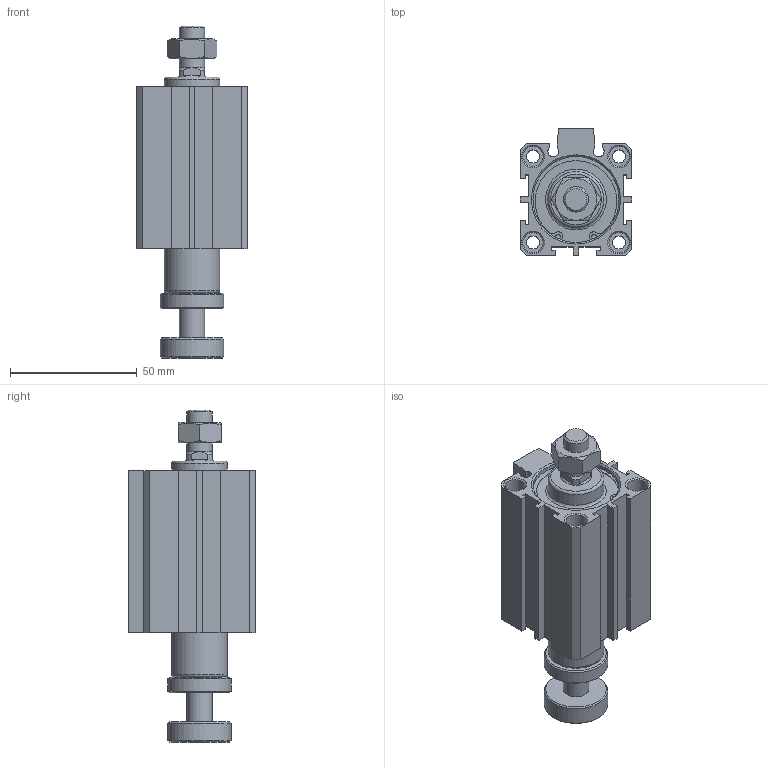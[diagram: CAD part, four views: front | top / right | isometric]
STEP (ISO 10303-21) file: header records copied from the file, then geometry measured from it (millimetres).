
FILE_DESCRIPTION((''),'2;1');
FILE_NAME('I:\3D電子目錄\氣缸\JDAR\JDAR-BS\JDAR32-BS\JDAR32x30-BS.stp','2007-05-05T11:50:18',('662F206'),(''),'Autodesk Inventor 11','Autodesk Inventor 11','');
FILE_SCHEMA(('AUTOMOTIVE_DESIGN { 1 0 10303 214 1 1 1 1 }'));
Length unit declared in the file: millimetre
Products named in the file (3): JDAR32-BS; R 形環 35
Assembly tree (3 placements, depth 2):
  JDAR32-BS
    JDAR32-BS
    R 形環 35  x2
Bounding box: 44 x 50 x 131.1 mm (x, y, z)
Volume: 124649.3 mm3; surface area: 33449.5 mm2
Topology: 3 solids, 3 shells, 180 faces, 421 edges, 273 vertices
Faces by surface type: plane 98, cylinder 53, cone 25, bspline 2, torus 2
Full cylindrical faces by diameter (mm): 1.9 x4, 2.2 x2, 5.1 x4, 8 x8, 10 x3, 22 x2, 25 x2, 34 x4, 36 x2
Entity records: 4639 total; most frequent: CARTESIAN_POINT 882, DIRECTION 784, ORIENTED_EDGE 664, EDGE_CURVE 332, AXIS2_PLACEMENT_3D 300, EDGE_LOOP 260, VERTEX_POINT 248, VECTOR 184
